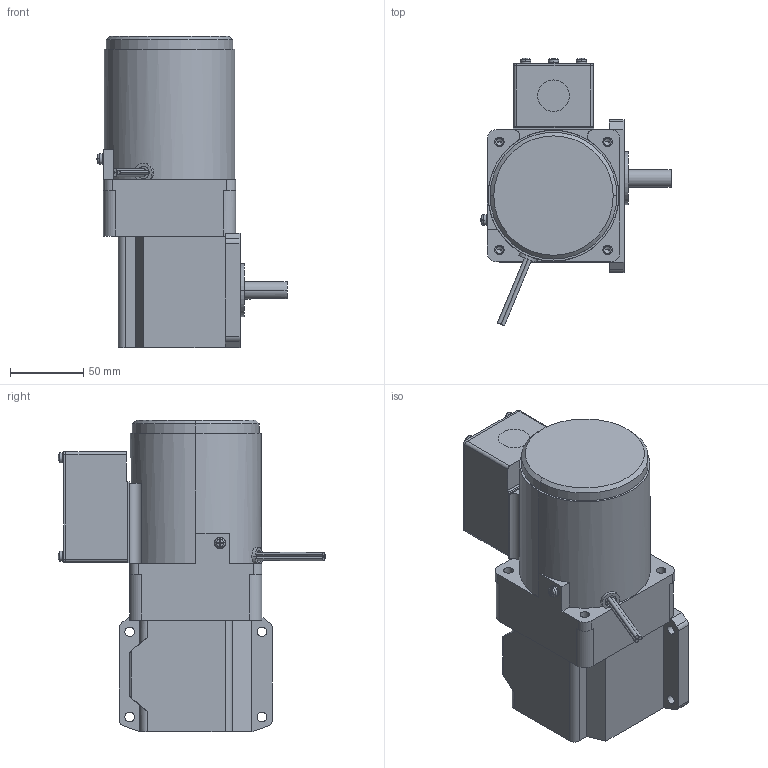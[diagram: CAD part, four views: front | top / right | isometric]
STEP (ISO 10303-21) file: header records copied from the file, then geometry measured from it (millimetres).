
FILE_DESCRIPTION (( 'STEP AP203' ), '1' );
FILE_NAME ('5_K40GN-SH_5GN_RA.STEP', '2022-09-23T23:37:26', ( '' ), ( '' ), 'SwSTEP 2.0', 'SolidWorks 2022', '' );
FILE_SCHEMA (( 'CONFIG_CONTROL_DESIGN' ));
Length unit declared in the file: millimetre
Products named in the file (1): 5_K40GN-SH_5GN_RA
Bounding box: 129.37 x 182.07 x 212 mm (x, y, z)
Volume: 1598454.9 mm3; surface area: 112547.5 mm2
Topology: 1 solids, 2 shells, 250 faces, 648 edges, 416 vertices
Faces by surface type: cylinder 127, plane 95, sphere 10, cone 10, torus 8
Entity records: 8087 total; most frequent: CARTESIAN_POINT 1700, DIRECTION 1406, ORIENTED_EDGE 1280, EDGE_CURVE 640, AXIS2_PLACEMENT_3D 544, VERTEX_POINT 416, LINE 318, VECTOR 318
